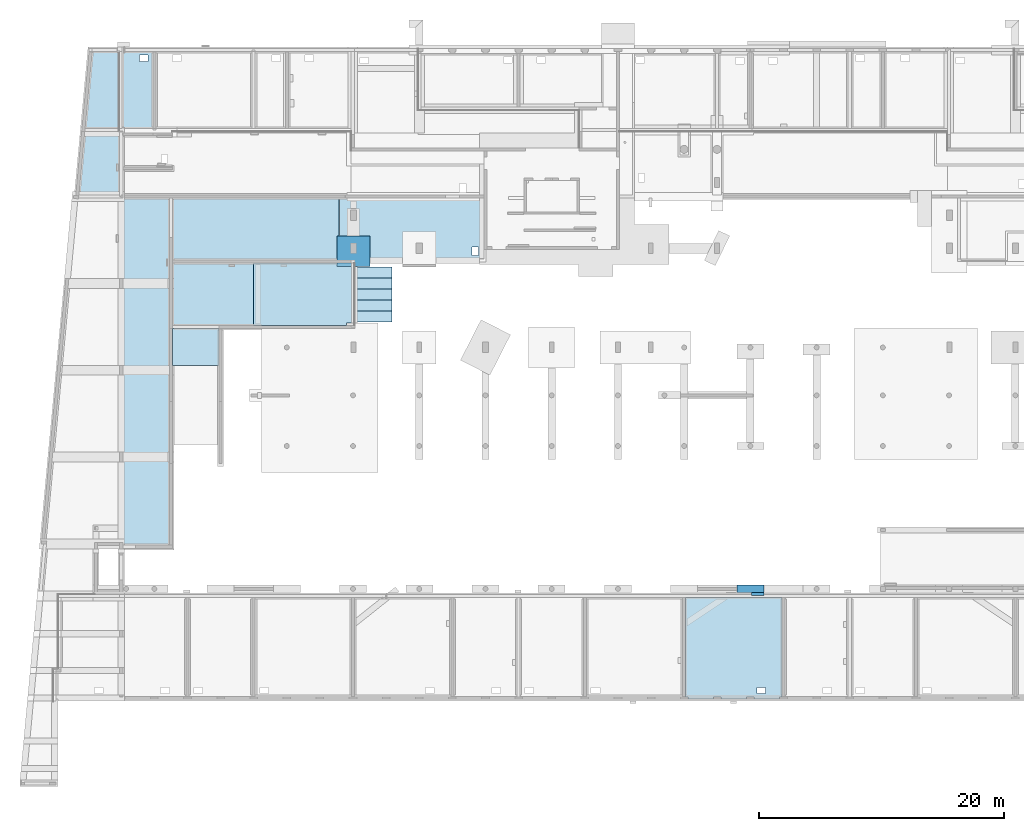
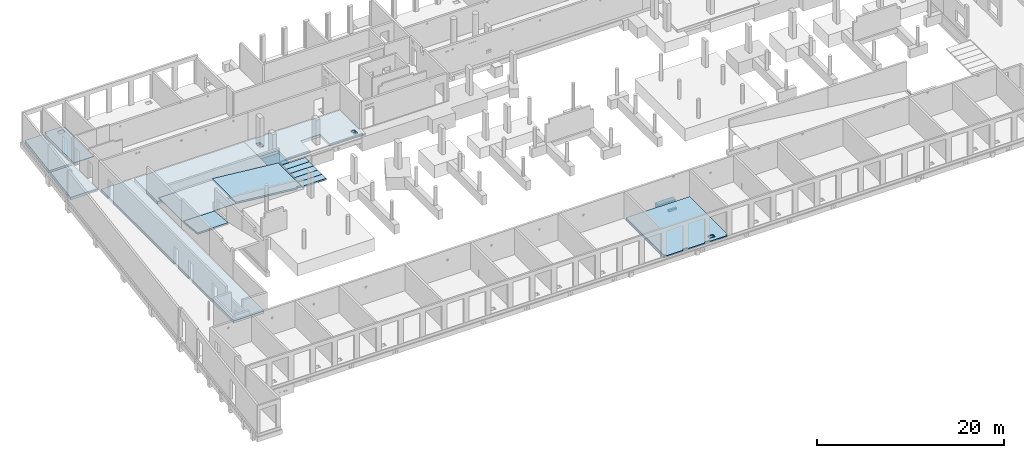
# One storey, part 23 of 60: 21 slabs, 38 openings.
"""IFC2X3 building model written with IfcOpenShell, lengths in millimetres."""

from ifc_helpers import new_model, entity, si_unit, converted_unit, derived_unit, direction, frame, frame_2d, origin, origin_2d_with_axis, place, context, subcontext, project, spatial, polyline, rectangle, outline, extrude, clip, halfspace, material, layer, layer_set, layer_usage, element, save


model = new_model("IFC2X3")

# Units and contexts
model_context = context("Model", 3, precision=0.01, world=origin(), true_north=direction((6.12303176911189e-17, 1.0)))
body_context = subcontext(model_context, "Body", "Model", "MODEL_VIEW")
ifc_project = project(units=[si_unit("LENGTHUNIT", "METRE", prefix="MILLI"), si_unit("AREAUNIT", "SQUARE_METRE"), si_unit("VOLUMEUNIT", "CUBIC_METRE"), converted_unit("PLANEANGLEUNIT", "DEGREE", entity("IfcRatioMeasure", 0.0174532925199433), si_unit("PLANEANGLEUNIT", "RADIAN"), dimensions=[0, 0, 0, 0, 0, 0, 0]), si_unit("MASSUNIT", "GRAM", prefix="KILO"), derived_unit("MASSDENSITYUNIT", [(si_unit("MASSUNIT", "GRAM", prefix="KILO"), 1), (si_unit("LENGTHUNIT", "METRE"), -3)]), si_unit("TIMEUNIT", "SECOND"), si_unit("FREQUENCYUNIT", "HERTZ"), si_unit("THERMODYNAMICTEMPERATUREUNIT", "DEGREE_CELSIUS"), derived_unit("THERMALTRANSMITTANCEUNIT", [(si_unit("MASSUNIT", "GRAM", prefix="KILO"), 1), (si_unit("THERMODYNAMICTEMPERATUREUNIT", "KELVIN"), -1), (si_unit("TIMEUNIT", "SECOND"), -3)]), derived_unit("VOLUMETRICFLOWRATEUNIT", [(si_unit("LENGTHUNIT", "METRE"), 3), (si_unit("TIMEUNIT", "SECOND"), -1)]), si_unit("ELECTRICCURRENTUNIT", "AMPERE"), si_unit("ELECTRICVOLTAGEUNIT", "VOLT"), si_unit("POWERUNIT", "WATT"), si_unit("FORCEUNIT", "NEWTON", prefix="KILO"), si_unit("ILLUMINANCEUNIT", "LUX"), si_unit("LUMINOUSFLUXUNIT", "LUMEN"), si_unit("LUMINOUSINTENSITYUNIT", "CANDELA"), derived_unit("USERDEFINED", [(si_unit("MASSUNIT", "GRAM", prefix="KILO"), -1), (si_unit("LENGTHUNIT", "METRE"), -2), (si_unit("TIMEUNIT", "SECOND"), 3), (si_unit("LUMINOUSFLUXUNIT", "LUMEN"), 1)]), derived_unit("LINEARVELOCITYUNIT", [(si_unit("LENGTHUNIT", "METRE"), 1), (si_unit("TIMEUNIT", "SECOND"), -1)]), si_unit("PRESSUREUNIT", "PASCAL"), derived_unit("USERDEFINED", [(si_unit("LENGTHUNIT", "METRE"), -2), (si_unit("MASSUNIT", "GRAM", prefix="KILO"), 1), (si_unit("TIMEUNIT", "SECOND"), -2)])], contexts=[model_context])

# Site, building, storey
site_placement = place(None, origin())
site = spatial("IfcSite", under=ifc_project, at=site_placement, Name="Default", CompositionType="ELEMENT")
building_placement = place(site_placement, origin())
building = spatial("IfcBuilding", under=site, at=building_placement, Name="niet gebruiken", CompositionType="ELEMENT")
storey_placement = place(building_placement, origin())
storey = spatial("IfcBuildingStorey", under=building, at=storey_placement, Name="00 begane grond", CompositionType="ELEMENT", Elevation=0.0)

# Slab
ifc_material_1 = material(Name="NLRS_f2_beton ihwg")
slab_1_placement = place(storey_placement, origin())
element("IfcSlab", 1, at=slab_1_placement, inside=storey, material=ifc_material_1, Name="NLRS_16.13_SFO_LB_fundatiepoer_gen:2470x2700x1350", ObjectType="NLRS_16.13_SFO_LB_fundatiepoer_gen:2470x2700x1350", PredefinedType="BASESLAB", context=body_context, shape_type="SweptSolid", body=[
    extrude(rectangle(XDim=2470.0, YDim=2700.0, at=frame_2d((-2.1600499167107e-12, -2.1600499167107e-12), x_axis=(1.0, 0.0))), frame((27025.0, 36736.0, -1752.0), z_axis=(0.0, 0.0, 1.0), x_axis=(0.0, -1.0, 0.0)), (0.0, 0.0, 1.0), 1350.0),
])

# Slab, openings
ifc_layer_1 = layer(ifc_material_1, 70.0)
ifc_layer_set_1 = layer_set([ifc_layer_1], Name="Floor:NLRS_23.21_FL_druklaag d=70_gen")
ifc_layer_usage_1 = layer_usage(ifc_layer_set_1, "AXIS3", "POSITIVE", 0.0)
slab_2_placement = place(storey_placement, frame((8180.0, 45156.0, -160.0)))
slab_2 = element("IfcSlab", 2, at=slab_2_placement, inside=storey, material=ifc_layer_usage_1, Name="Floor:NLRS_23.21_FL_druklaag d=70_gen:7", ObjectType="Floor:NLRS_23.21_FL_druklaag d=70_gen", PredefinedType="FLOOR", context=body_context, shape_type="SweptSolid", body=[
    extrude(outline(polyline([(55247.4999999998, -2460.0), (55247.4999999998, 3800.0), (55017.5000000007, 3800.0), (55017.5000000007, 4050.0), (52937.5000000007, 4050.0), (52937.5000000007, 3800.0), (52752.4999999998, 3800.0), (52752.4999999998, -2460.0), (55247.4999999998, -2460.0)])), frame((55247.4999999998, 4050.0, 70.0), z_axis=(0.0, 0.0, -1.0), x_axis=(-1.0, 0.0, 0.0)), (0.0, 0.0, 1.0), 70.0),
])
placement_1 = place(storey_placement, frame((8180.0, 45156.0, -160.0)))
opening_1_placement = place(placement_1, origin())
element("IfcOpeningElement", 3, at=opening_1_placement, cuts=slab_2, ObjectType="Opening", context=body_context, shape_type="SweptSolid", body=[
    extrude(rectangle(XDim=700.000000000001, YDim=499.999999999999, at=origin_2d_with_axis()), frame((1750.0, 7302.50000000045, -380.0), z_axis=(0.0, 0.0, 1.0), x_axis=(-1.0, 0.0, 0.0)), (0.0, 0.0, 1.0), 450.0),
])
opening_2_placement = place(placement_1, origin())
element("IfcOpeningElement", 4, at=opening_2_placement, cuts=slab_2, ObjectType="Opening", context=body_context, shape_type="SweptSolid", body=[
    extrude(rectangle(XDim=700.000000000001, YDim=499.999999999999, at=origin_2d_with_axis()), frame((4450.0, 7302.50000000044, -380.0), z_axis=(0.0, 0.0, 1.0), x_axis=(-1.0, 0.0, 0.0)), (0.0, 0.0, 1.0), 450.0),
])
opening_3_placement = place(placement_1, origin())
element("IfcOpeningElement", 5, at=opening_3_placement, cuts=slab_2, ObjectType="Opening", context=body_context, shape_type="SweptSolid", body=[
    extrude(rectangle(XDim=700.000000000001, YDim=499.999999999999, at=origin_2d_with_axis()), frame((12550.0, 7302.50000000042, -380.0), z_axis=(0.0, 0.0, 1.0), x_axis=(-1.0, 0.0, 0.0)), (0.0, 0.0, 1.0), 450.0),
])
opening_4_placement = place(placement_1, origin())
element("IfcOpeningElement", 6, at=opening_4_placement, cuts=slab_2, ObjectType="Opening", context=body_context, shape_type="SweptSolid", body=[
    extrude(rectangle(XDim=700.000000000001, YDim=499.999999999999, at=origin_2d_with_axis()), frame((15250.0, 7302.50000000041, -380.0), z_axis=(0.0, 0.0, 1.0), x_axis=(-1.0, 0.0, 0.0)), (0.0, 0.0, 1.0), 450.0),
])
opening_5_placement = place(placement_1, origin())
element("IfcOpeningElement", 7, at=opening_5_placement, cuts=slab_2, ObjectType="Opening", context=body_context, shape_type="SweptSolid", body=[
    extrude(rectangle(XDim=700.000000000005, YDim=499.999999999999, at=origin_2d_with_axis()), frame((42250.0, 7175.0, -380.0), z_axis=(0.0, 0.0, 1.0), x_axis=(-1.0, 0.0, 0.0)), (0.0, 0.0, 1.0), 450.0),
])
opening_6_placement = place(placement_1, origin())
element("IfcOpeningElement", 8, at=opening_6_placement, cuts=slab_2, ObjectType="Opening", context=body_context, shape_type="SweptSolid", body=[
    extrude(rectangle(XDim=700.000000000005, YDim=499.999999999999, at=origin_2d_with_axis()), frame((50350.0, 7102.50000000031, -380.0), z_axis=(0.0, 0.0, 1.0), x_axis=(-1.0, 0.0, 0.0)), (0.0, 0.0, 1.0), 450.0),
])
opening_7_placement = place(placement_1, origin())
element("IfcOpeningElement", 9, at=opening_7_placement, cuts=slab_2, ObjectType="Opening", context=body_context, shape_type="SweptSolid", body=[
    extrude(rectangle(XDim=699.999999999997, YDim=499.999999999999, at=origin_2d_with_axis()), frame((53050.0, 7102.50000000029, -380.0), z_axis=(0.0, 0.0, 1.0), x_axis=(-1.0, 0.0, 0.0)), (0.0, 0.0, 1.0), 450.0),
])
opening_8_placement = place(placement_1, origin())
element("IfcOpeningElement", 10, at=opening_8_placement, cuts=slab_2, ObjectType="Opening", context=body_context, shape_type="SweptSolid", body=[
    extrude(rectangle(XDim=699.999999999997, YDim=499.999999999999, at=origin_2d_with_axis()), frame((60190.0, 7302.50000000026, -380.0), z_axis=(0.0, 0.0, 1.0), x_axis=(-1.0, 0.0, 0.0)), (0.0, 0.0, 1.0), 450.0),
])
opening_9_placement = place(placement_1, origin())
element("IfcOpeningElement", 11, at=opening_9_placement, cuts=slab_2, ObjectType="Opening", context=body_context, shape_type="SweptSolid", body=[
    extrude(rectangle(XDim=700.000000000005, YDim=499.999999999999, at=origin_2d_with_axis()), frame((63850.0, 7302.50000000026, -380.0), z_axis=(0.0, 0.0, 1.0), x_axis=(-1.0, 0.0, 0.0)), (0.0, 0.0, 1.0), 450.0),
])
opening_10_placement = place(placement_1, origin())
element("IfcOpeningElement", 12, at=opening_10_placement, cuts=slab_2, ObjectType="Opening", context=body_context, shape_type="SweptSolid", body=[
    extrude(rectangle(XDim=699.999999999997, YDim=499.999999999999, at=origin_2d_with_axis()), frame((90850.0, 7155.0, -380.0), z_axis=(0.0, 0.0, 1.0), x_axis=(-1.0, 0.0, 0.0)), (0.0, 0.0, 1.0), 450.0),
])
opening_11_placement = place(placement_1, origin())
element("IfcOpeningElement", 13, at=opening_11_placement, cuts=slab_2, ObjectType="Opening", context=body_context, shape_type="SweptSolid", body=[
    extrude(rectangle(XDim=699.999999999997, YDim=499.999999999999, at=origin_2d_with_axis()), frame((97990.0, 7155.0, -380.0), z_axis=(0.0, 0.0, 1.0), x_axis=(-1.0, 0.0, 0.0)), (0.0, 0.0, 1.0), 450.0),
])
opening_12_placement = place(placement_1, origin())
element("IfcOpeningElement", 14, at=opening_12_placement, cuts=slab_2, ObjectType="Opening", context=body_context, shape_type="SweptSolid", body=[
    extrude(rectangle(XDim=699.999999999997, YDim=499.999999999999, at=origin_2d_with_axis()), frame((101650.0, 7302.50000000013, -380.0), z_axis=(0.0, 0.0, 1.0), x_axis=(-1.0, 0.0, 0.0)), (0.0, 0.0, 1.0), 450.0),
])
opening_13_placement = place(placement_1, origin())
element("IfcOpeningElement", 15, at=opening_13_placement, cuts=slab_2, ObjectType="Opening", context=body_context, shape_type="SweptSolid", body=[
    extrude(rectangle(XDim=699.999999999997, YDim=499.999999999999, at=origin_2d_with_axis()), frame((109750.0, 7302.50000000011, -380.0), z_axis=(0.0, 0.0, 1.0), x_axis=(-1.0, 0.0, 0.0)), (0.0, 0.0, 1.0), 450.0),
])
opening_14_placement = place(placement_1, origin())
element("IfcOpeningElement", 16, at=opening_14_placement, cuts=slab_2, ObjectType="Opening", context=body_context, shape_type="SweptSolid", body=[
    extrude(rectangle(XDim=699.999999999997, YDim=499.999999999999, at=origin_2d_with_axis()), frame((112450.0, 7302.5000000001, -380.0), z_axis=(0.0, 0.0, 1.0), x_axis=(-1.0, 0.0, 0.0)), (0.0, 0.0, 1.0), 450.0),
])
opening_15_placement = place(placement_1, origin())
element("IfcOpeningElement", 17, at=opening_15_placement, cuts=slab_2, ObjectType="Opening", context=body_context, shape_type="SweptSolid", body=[
    extrude(rectangle(XDim=700.000000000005, YDim=499.999999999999, at=origin_2d_with_axis()), frame((31450.0, 7175.0, -380.0), z_axis=(0.0, 0.0, 1.0), x_axis=(-1.0, 0.0, 0.0)), (0.0, 0.0, 1.0), 450.0),
])
opening_16_placement = place(placement_1, origin())
element("IfcOpeningElement", 18, at=opening_16_placement, cuts=slab_2, ObjectType="Opening", context=body_context, shape_type="SweptSolid", body=[
    extrude(rectangle(XDim=700.000000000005, YDim=499.999999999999, at=origin_2d_with_axis()), frame((34150.0, 7175.0, -380.0), z_axis=(0.0, 0.0, 1.0), x_axis=(-1.0, 0.0, 0.0)), (0.0, 0.0, 1.0), 450.0),
])
opening_17_placement = place(placement_1, origin())
element("IfcOpeningElement", 19, at=opening_17_placement, cuts=slab_2, ObjectType="Opening", context=body_context, shape_type="SweptSolid", body=[
    extrude(rectangle(XDim=699.999999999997, YDim=499.999999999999, at=origin_2d_with_axis()), frame((82750.0, 7175.0, -380.0), z_axis=(0.0, 0.0, 1.0), x_axis=(-1.0, 0.0, 0.0)), (0.0, 0.0, 1.0), 450.0),
])
opening_18_placement = place(placement_1, origin())
element("IfcOpeningElement", 20, at=opening_18_placement, cuts=slab_2, ObjectType="Opening", context=body_context, shape_type="SweptSolid", body=[
    extrude(rectangle(XDim=699.999999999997, YDim=499.999999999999, at=origin_2d_with_axis()), frame((80050.0, 7175.0, -380.0), z_axis=(0.0, 0.0, 1.0), x_axis=(-1.0, 0.0, 0.0)), (0.0, 0.0, 1.0), 450.0),
])
opening_19_placement = place(placement_1, origin())
element("IfcOpeningElement", 21, at=opening_19_placement, cuts=slab_2, ObjectType="Opening", context=body_context, shape_type="SweptSolid", body=[
    extrude(rectangle(XDim=700.000000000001, YDim=499.999999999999, at=origin_2d_with_axis()), frame((19739.8230847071, 7129.78918001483, -380.0), z_axis=(0.0, 0.0, 1.0), x_axis=(-1.0, 0.0, 0.0)), (0.0, 0.0, 1.0), 450.0),
])

ifc_layer_usage_2 = layer_usage(ifc_layer_set_1, "AXIS3", "POSITIVE", 0.0)
slab_3_placement = place(storey_placement, frame((2800.0, 200.0, -160.0)))
slab_3 = element("IfcSlab", 22, at=slab_3_placement, inside=storey, material=ifc_layer_usage_2, Name="Floor:NLRS_23.21_FL_druklaag d=70_gen:10", ObjectType="Floor:NLRS_23.21_FL_druklaag d=70_gen", PredefinedType="FLOOR", context=body_context, shape_type="SweptSolid", body=[
    extrude(outline(polyline([(-1572.49999999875, -3948.0), (-1387.49999999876, -3948.0), (-1387.49999999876, 4148.0), (-9237.49999999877, 4148.0), (-9237.49999999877, -3948.0), (-9052.49999999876, -3948.0), (-9052.49999999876, -4148.0), (-6972.49999999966, -4148.0), (-6972.49999999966, -3948.0), (-6352.49999999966, -3948.0), (-6352.49999999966, -4148.0), (-4272.49999999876, -4148.0), (-4272.49999999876, -3948.0), (-3652.49999999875, -3948.0), (-3652.49999999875, -4148.0), (-1572.49999999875, -4148.0), (-1572.49999999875, -3948.0)])), frame((49937.5, 4148.0, 70.0), z_axis=(0.0, 0.0, -1.0), x_axis=(-1.0, 0.0, 0.0)), (0.0, 0.0, 1.0), 70.0),
])
placement_2 = place(storey_placement, frame((2800.0, 200.0, -160.0)))
opening_20_placement = place(placement_2, origin())
element("IfcOpeningElement", 23, at=opening_20_placement, cuts=slab_3, ObjectType="Opening", context=body_context, shape_type="SweptSolid", body=[
    extrude(rectangle(XDim=699.999999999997, YDim=500.000000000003, at=origin_2d_with_axis()), frame((89870.0, 725.0, -380.0), z_axis=(0.0, 0.0, 1.0), x_axis=(-1.0, 0.0, 0.0)), (0.0, 0.0, 1.0), 450.0),
])
opening_21_placement = place(placement_2, origin())
element("IfcOpeningElement", 24, at=opening_21_placement, cuts=slab_3, ObjectType="Opening", context=body_context, shape_type="SweptSolid", body=[
    extrude(rectangle(XDim=699.999999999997, YDim=500.000000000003, at=origin_2d_with_axis()), frame((92570.0, 725.0, -380.0), z_axis=(0.0, 0.0, 1.0), x_axis=(-1.0, 0.0, 0.0)), (0.0, 0.0, 1.0), 450.0),
])
opening_22_placement = place(placement_2, origin())
element("IfcOpeningElement", 25, at=opening_22_placement, cuts=slab_3, ObjectType="Opening", context=body_context, shape_type="SweptSolid", body=[
    extrude(rectangle(XDim=699.999999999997, YDim=500.000000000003, at=origin_2d_with_axis()), frame((84470.0, 725.0, -380.0), z_axis=(0.0, 0.0, 1.0), x_axis=(-1.0, 0.0, 0.0)), (0.0, 0.0, 1.0), 450.0),
])
opening_23_placement = place(placement_2, origin())
element("IfcOpeningElement", 26, at=opening_23_placement, cuts=slab_3, ObjectType="Opening", context=body_context, shape_type="SweptSolid", body=[
    extrude(rectangle(XDim=700.000000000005, YDim=500.000000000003, at=origin_2d_with_axis()), frame((70970.0, 725.0, -380.0), z_axis=(0.0, 0.0, 1.0), x_axis=(-1.0, 0.0, 0.0)), (0.0, 0.0, 1.0), 450.0),
])
opening_24_placement = place(placement_2, origin())
element("IfcOpeningElement", 27, at=opening_24_placement, cuts=slab_3, ObjectType="Opening", context=body_context, shape_type="SweptSolid", body=[
    extrude(rectangle(XDim=700.000000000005, YDim=500.000000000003, at=origin_2d_with_axis()), frame((65570.0, 725.0, -380.0), z_axis=(0.0, 0.0, 1.0), x_axis=(-1.0, 0.0, 0.0)), (0.0, 0.0, 1.0), 450.0),
])
opening_25_placement = place(placement_2, origin())
element("IfcOpeningElement", 28, at=opening_25_placement, cuts=slab_3, ObjectType="Opening", context=body_context, shape_type="SweptSolid", body=[
    extrude(rectangle(XDim=700.000000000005, YDim=500.000000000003, at=origin_2d_with_axis()), frame((62870.0, 725.0, -380.0), z_axis=(0.0, 0.0, 1.0), x_axis=(-1.0, 0.0, 0.0)), (0.0, 0.0, 1.0), 450.0),
])
opening_26_placement = place(placement_2, origin())
element("IfcOpeningElement", 29, at=opening_26_placement, cuts=slab_3, ObjectType="Opening", context=body_context, shape_type="SweptSolid", body=[
    extrude(rectangle(XDim=700.000000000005, YDim=500.000000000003, at=origin_2d_with_axis()), frame((57470.0, 725.0, -380.0), z_axis=(0.0, 0.0, 1.0), x_axis=(-1.0, 0.0, 0.0)), (0.0, 0.0, 1.0), 450.0),
])
opening_27_placement = place(placement_2, origin())
element("IfcOpeningElement", 30, at=opening_27_placement, cuts=slab_3, ObjectType="Opening", context=body_context, shape_type="SweptSolid", body=[
    extrude(rectangle(XDim=700.000000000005, YDim=500.000000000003, at=origin_2d_with_axis()), frame((43970.0, 725.0, -380.0), z_axis=(0.0, 0.0, 1.0), x_axis=(-1.0, 0.0, 0.0)), (0.0, 0.0, 1.0), 450.0),
])
opening_28_placement = place(placement_2, origin())
element("IfcOpeningElement", 31, at=opening_28_placement, cuts=slab_3, ObjectType="Opening", context=body_context, shape_type="SweptSolid", body=[
    extrude(rectangle(XDim=700.000000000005, YDim=500.000000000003, at=origin_2d_with_axis()), frame((38570.0, 725.0, -380.0), z_axis=(0.0, 0.0, 1.0), x_axis=(-1.0, 0.0, 0.0)), (0.0, 0.0, 1.0), 450.0),
])
opening_29_placement = place(placement_2, origin())
element("IfcOpeningElement", 32, at=opening_29_placement, cuts=slab_3, ObjectType="Opening", context=body_context, shape_type="SweptSolid", body=[
    extrude(rectangle(XDim=700.000000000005, YDim=500.000000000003, at=origin_2d_with_axis()), frame((35870.0, 725.0, -380.0), z_axis=(0.0, 0.0, 1.0), x_axis=(-1.0, 0.0, 0.0)), (0.0, 0.0, 1.0), 450.0),
])
opening_30_placement = place(placement_2, origin())
element("IfcOpeningElement", 33, at=opening_30_placement, cuts=slab_3, ObjectType="Opening", context=body_context, shape_type="SweptSolid", body=[
    extrude(rectangle(XDim=700.000000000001, YDim=500.000000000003, at=origin_2d_with_axis()), frame((30470.0, 725.0, -380.0), z_axis=(0.0, 0.0, 1.0), x_axis=(-1.0, 0.0, 0.0)), (0.0, 0.0, 1.0), 450.0),
])
opening_31_placement = place(placement_2, origin())
element("IfcOpeningElement", 34, at=opening_31_placement, cuts=slab_3, ObjectType="Opening", context=body_context, shape_type="SweptSolid", body=[
    extrude(rectangle(XDim=700.000000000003, YDim=500.000000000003, at=origin_2d_with_axis()), frame((16970.0, 725.0, -380.0), z_axis=(0.0, 0.0, 1.0), x_axis=(-1.0, 0.0, 0.0)), (0.0, 0.0, 1.0), 450.0),
])
opening_32_placement = place(placement_2, origin())
element("IfcOpeningElement", 35, at=opening_32_placement, cuts=slab_3, ObjectType="Opening", context=body_context, shape_type="SweptSolid", body=[
    extrude(rectangle(XDim=700.000000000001, YDim=500.000000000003, at=origin_2d_with_axis()), frame((11570.0, 725.0, -380.0), z_axis=(0.0, 0.0, 1.0), x_axis=(-1.0, 0.0, 0.0)), (0.0, 0.0, 1.0), 450.0),
])
opening_33_placement = place(placement_2, origin())
element("IfcOpeningElement", 36, at=opening_33_placement, cuts=slab_3, ObjectType="Opening", context=body_context, shape_type="SweptSolid", body=[
    extrude(rectangle(XDim=700.000000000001, YDim=500.000000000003, at=origin_2d_with_axis()), frame((8870.0, 725.0, -380.0), z_axis=(0.0, 0.0, 1.0), x_axis=(-1.0, 0.0, 0.0)), (0.0, 0.0, 1.0), 450.0),
])
opening_34_placement = place(placement_2, origin())
element("IfcOpeningElement", 37, at=opening_34_placement, cuts=slab_3, ObjectType="Opening", context=body_context, shape_type="SweptSolid", body=[
    extrude(rectangle(XDim=700.000000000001, YDim=500.000000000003, at=origin_2d_with_axis()), frame((3470.0, 725.0, -380.0), z_axis=(0.0, 0.0, 1.0), x_axis=(-1.0, 0.0, 0.0)), (0.0, 0.0, 1.0), 450.0),
])
opening_35_placement = place(placement_2, origin())
element("IfcOpeningElement", 38, at=opening_35_placement, cuts=slab_3, ObjectType="Opening", context=body_context, shape_type="SweptSolid", body=[
    extrude(rectangle(XDim=699.999999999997, YDim=500.000000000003, at=origin_2d_with_axis()), frame((99205.001708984, 4120.00003051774, -380.0), z_axis=(0.0, 0.0, 1.0), x_axis=(-1.0, 0.0, 0.0)), (0.0, 0.0, 1.0), 450.0),
])

# Slabs
ifc_material_2 = material(Name="NLRS_f2_beton prefab")
ifc_layer_2 = layer(ifc_material_2, 200.0)
ifc_material_3 = material(Name="NLRS_n7_isolatie EPS")
ifc_layer_3 = layer(ifc_material_3, 132.0)
ifc_layer_set_2 = layer_set([ifc_layer_2, ifc_layer_3], Name="Floor:NLRS_23.21_FL_geisoleerde kanaalplaat d=200 rc 3.5 iso132_gen")
ifc_layer_usage_3 = layer_usage(ifc_layer_set_2, "AXIS3", "POSITIVE", 0.0)
slab_4_placement = place(storey_placement, origin())
element("IfcSlab", 39, at=slab_4_placement, inside=storey, material=ifc_layer_usage_3, Name="Floor:NLRS_23.21_FL_geisoleerde kanaalplaat d=200 rc 3.5 iso132_gen", ObjectType="Floor:NLRS_23.21_FL_geisoleerde kanaalplaat d=200 rc 3.5 iso132_gen", PredefinedType="FLOOR", context=body_context, shape_type="SweptSolid", body=[
    extrude(outline(polyline([(-1225.67147952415, -3110.0), (1513.95306384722, -3110.0), (937.389895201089, 3110.0), (-1225.67147952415, 3110.0), (-1225.67147952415, -3110.0)])), frame((6684.32852047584, 49876.0, -70.0), z_axis=(0.0, 0.0, -1.0), x_axis=(-1.0, 0.0, 0.0)), (0.0, 0.0, 1.0), 332.0),
])
ifc_layer_usage_4 = layer_usage(ifc_layer_set_2, "AXIS3", "POSITIVE", 0.0)
slab_5_placement = place(storey_placement, origin())
element("IfcSlab", 40, at=slab_5_placement, inside=storey, material=ifc_layer_usage_4, Name="Floor:NLRS_23.21_FL_geisoleerde kanaalplaat d=200 rc 3.5 iso132_gen", ObjectType="Floor:NLRS_23.21_FL_geisoleerde kanaalplaat d=200 rc 3.5 iso132_gen", PredefinedType="FLOOR", context=body_context, shape_type="SweptSolid", body=[
    extrude(outline(polyline([(-1524.98205225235, -2572.49999999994), (1763.4400508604, -2572.49999999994), (1286.52405364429, 2572.49999999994), (-1524.98205225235, 2572.49999999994), (-1524.98205225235, -2572.49999999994)])), frame((6430.01794774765, 43903.5000000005, -70.0), z_axis=(0.0, 0.0, -1.0), x_axis=(-1.0, 0.0, 0.0)), (0.0, 0.0, 1.0), 332.0),
])

# Slab, opening
ifc_layer_usage_5 = layer_usage(ifc_layer_set_2, "AXIS3", "POSITIVE", 0.0)
slab_6_placement = place(storey_placement, frame((54145.0, 420.0, -492.0)))
slab_6 = element("IfcSlab", 41, at=slab_6_placement, inside=storey, material=ifc_layer_usage_5, Name="Floor:NLRS_23.21_FL_geisoleerde kanaalplaat d=200 rc 3.5 iso132_gen", ObjectType="Floor:NLRS_23.21_FL_geisoleerde kanaalplaat d=200 rc 3.5 iso132_gen", PredefinedType="FLOOR", context=body_context, shape_type="SweptSolid", body=[
    extrude(rectangle(XDim=8055.99999999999, YDim=7809.99999999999, at=frame_2d((0.0, 0.0), x_axis=(0.0, -1.0))), frame((3905.0, 4028.0, 332.0), z_axis=(0.0, 0.0, -1.0), x_axis=(-1.0, 0.0, 0.0)), (0.0, 0.0, 1.0), 332.0),
])
opening_36_placement = place(slab_6_placement, origin())
element("IfcOpeningElement", 42, at=opening_36_placement, cuts=slab_6, ObjectType="Opening", context=body_context, shape_type="SweptSolid", body=[
    extrude(rectangle(XDim=700.000000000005, YDim=500.000000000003, at=origin_2d_with_axis()), frame((6125.0, 505.0, -48.0), z_axis=(0.0, 0.0, 1.0), x_axis=(-1.0, 0.0, 0.0)), (0.0, 0.0, 1.0), 450.0),
])

# Slab
ifc_layer_usage_6 = layer_usage(ifc_layer_set_2, "AXIS3", "POSITIVE", 0.0)
slab_7_placement = place(storey_placement, origin())
element("IfcSlab", 43, at=slab_7_placement, inside=storey, material=ifc_layer_usage_6, Name="Floor:NLRS_23.21_FL_geisoleerde kanaalplaat d=200 rc 3.5 iso132_gen", ObjectType="Floor:NLRS_23.21_FL_geisoleerde kanaalplaat d=200 rc 3.5 iso132_gen", PredefinedType="FLOOR", context=body_context, shape_type="SweptSolid", body=[
    extrude(rectangle(XDim=5014.99999999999, YDim=13564.9999999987, at=frame_2d((0.0, 2.27373675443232e-12), x_axis=(1.0, 0.0))), frame((19077.4999999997, 38533.5000000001, -70.0), z_axis=(0.0, 0.0, -1.0), x_axis=(0.0, 1.0, 0.0)), (0.0, 0.0, 1.0), 332.0),
])

# Slab, openings
ifc_layer_usage_7 = layer_usage(ifc_layer_set_2, "AXIS3", "POSITIVE", 0.0)
slab_8_placement = place(storey_placement, frame((25880.0, 36126.0, -402.0)))
slab_8 = element("IfcSlab", 44, at=slab_8_placement, inside=storey, material=ifc_layer_usage_7, Name="Floor:NLRS_23.21_FL_geisoleerde kanaalplaat d=200 rc 3.5 iso132_gen", ObjectType="Floor:NLRS_23.21_FL_geisoleerde kanaalplaat d=200 rc 3.5 iso132_gen", PredefinedType="FLOOR", context=body_context, shape_type="SweptSolid", body=[
    extrude(outline(polyline([(-5887.49999999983, 2457.5), (-5887.49999999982, -2457.50000000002), (-1832.50000000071, -2457.50000000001), (-1832.50000000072, -402.500000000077), (567.499999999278, -402.500000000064), (567.499999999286, -2457.5), (3542.49999999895, -2457.5), (3542.49999999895, -762.499999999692), (5887.49999999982, -762.499999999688), (5887.49999999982, 2457.5), (-5887.49999999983, 2457.5)])), frame((5887.49999999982, 2457.50000000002, 332.0), z_axis=(0.0, 0.0, -1.0), x_axis=(-1.0, 0.0, 0.0)), (0.0, 0.0, 1.0), 332.0),
])
opening_37_placement = place(slab_8_placement, origin())
element("IfcOpeningElement", 45, at=opening_37_placement, cuts=slab_8, ObjectType="Opening", context=body_context, shape_type="SweptSolid", body=[
    extrude(rectangle(XDim=700.000000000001, YDim=500.000000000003, at=origin_2d_with_axis()), frame((11079.9941357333, 590.002868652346, -48.0), z_axis=(0.0, 0.0, 1.0), x_axis=(0.0, -1.0, 0.0)), (0.0, 0.0, 1.0), 450.0),
])
opening_38_placement = place(slab_8_placement, frame((1145.0, 3530.0, 332.0)))
element("IfcOpeningElement", 46, at=opening_38_placement, cuts=slab_8, Name="Floor:NLRS_23.21_FL_geisoleerde kanaalplaat d=200 rc 3.5 iso132_gen:2", ObjectType="Opening", context=body_context, shape_type="SweptSolid", body=[
    extrude(rectangle(XDim=890.000000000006, YDim=539.999999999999, at=origin_2d_with_axis()), frame((0.0, 0.0, 0.0), z_axis=(0.0, 0.0, -1.0), x_axis=(0.0, -1.0, 0.0)), (0.0, 0.0, 1.0), 332.0),
])

# Slabs
ifc_layer_4 = layer(ifc_material_1, 250.0)
ifc_layer_set_3 = layer_set([ifc_layer_4], Name="Floor:NLRS_23.21_FL_breedplaat d=70/250_opgeruwd_schil apart_gen")
ifc_layer_usage_8 = layer_usage(ifc_layer_set_3, "AXIS3", "POSITIVE", 0.0)
slab_9_placement = place(storey_placement, origin())
element("IfcSlab", 47, at=slab_9_placement, inside=storey, material=ifc_layer_usage_8, Name="Floor:NLRS_23.21_FL_breedplaat d=70/250_opgeruwd_schil apart_gen", ObjectType="Floor:NLRS_23.21_FL_breedplaat d=70/250_opgeruwd_schil apart_gen", PredefinedType="FLOOR", context=body_context, shape_type="Clipping", body=[
    clip(clip(extrude(rectangle(XDim=3014.96268633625, YDim=3799.99999999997, at=frame_2d((2.27373675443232e-12, 0.0), x_axis=(1.0, 0.0))), frame((14175.0, 28926.0, 950.0), z_axis=(0.0, -0.0995037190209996, -0.995037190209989), x_axis=(0.0, 0.995037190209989, -0.0995037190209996)), (0.0995037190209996, 0.0, 0.995037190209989), 181.80233229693), halfspace(frame((14175.0, 30446.0, 617.109430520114), z_axis=(0.0, -0.0995006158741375, -0.995037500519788), x_axis=(0.0, 0.995037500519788, -0.0995006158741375)), False)), halfspace(frame((14175.0, 30426.0, 800.0), z_axis=(0.0, 0.0995037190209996, 0.995037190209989), x_axis=(0.0, 0.995037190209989, -0.0995037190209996)), False)),
])
ifc_layer_usage_9 = layer_usage(ifc_layer_set_3, "AXIS3", "POSITIVE", 0.0)
slab_10_placement = place(storey_placement, frame((18900.0, 30676.0, -251.216367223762)))
element("IfcSlab", 48, at=slab_10_placement, inside=storey, material=ifc_layer_usage_9, Name="Floor:NLRS_23.21_FL_breedplaat d=70/250_opgeruwd_schil apart_gen", ObjectType="Floor:NLRS_23.21_FL_breedplaat d=70/250_opgeruwd_schil apart_gen", PredefinedType="FLOOR", context=body_context, shape_type="SweptSolid", body=[
    extrude(outline(polyline([(0.0, -2575.0), (0.0, 2300.0), (-8139.41029804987, 2300.0), (-8139.41029804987, -2780.0), (-552.676007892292, -2780.0), (-552.676007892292, -2575.0), (0.0, -2575.0)])), frame((8100.0, 2780.0, 251.216367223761), z_axis=(0.098287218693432, 0.0, 0.995158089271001), x_axis=(0.995158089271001, 0.0, -0.098287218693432)), (0.098287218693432, 0.0, -0.995158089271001), 251.216367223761),
])
ifc_layer_usage_10 = layer_usage(ifc_layer_set_2, "AXIS3", "POSITIVE", 0.0)
slab_11_placement = place(storey_placement, origin())
element("IfcSlab", 49, at=slab_11_placement, inside=storey, material=ifc_layer_usage_10, Name="Floor:NLRS_23.21_FL_geisoleerde kanaalplaat d=200 rc 3.5 iso132_gen", ObjectType="Floor:NLRS_23.21_FL_geisoleerde kanaalplaat d=200 rc 3.5 iso132_gen", PredefinedType="FLOOR", context=body_context, shape_type="SweptSolid", body=[
    extrude(rectangle(XDim=28265.0000000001, YDim=3760.00000000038, at=frame_2d((-9.09494701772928e-12, -1.13686837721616e-12), x_axis=(1.0, 0.0))), frame((10125.0, 26908.5, -70.0), z_axis=(0.0, 0.0, -1.0), x_axis=(0.0, 1.0, 0.0)), (0.0, 0.0, 1.0), 332.0),
])
slab_12_placement = place(storey_placement, origin())
element("IfcSlab", 50, at=slab_12_placement, inside=storey, material=ifc_material_1, Name="NLRS_16.13_SFO_LB_fundatiepoer_gen:600x2200x1200", ObjectType="NLRS_16.13_SFO_LB_fundatiepoer_gen:600x2200x1200", PredefinedType="BASESLAB", context=body_context, shape_type="SweptSolid", body=[
    extrude(rectangle(XDim=2200.0, YDim=600.0, at=frame_2d((20.0000000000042, -59.9999999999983), x_axis=(1.0, 0.0))), frame((59420.0, 9136.0, -1400.0), z_axis=(0.0, 0.0, 1.0), x_axis=(-1.0, 0.0, 0.0)), (0.0, 0.0, 1.0), 1200.0),
])
ifc_layer_5 = layer(ifc_material_2, 200.0)
ifc_layer_set_4 = layer_set([ifc_layer_5], Name="Floor:NLRS_13.22_FL_beton prefab d=200_gen")
ifc_layer_usage_11 = layer_usage(ifc_layer_set_4, "AXIS3", "POSITIVE", 0.0)
slab_13_placement = place(storey_placement, origin())
element("IfcSlab", 51, at=slab_13_placement, inside=storey, material=ifc_layer_usage_11, Name="Floor:NLRS_13.22_FL_beton prefab d=200_gen", ObjectType="Floor:NLRS_13.22_FL_beton prefab d=200_gen", PredefinedType="FLOOR", context=body_context, shape_type="SweptSolid", body=[
    extrude(rectangle(XDim=900.000000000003, YDim=3000.00000000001, at=frame_2d((2.1600499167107e-12, 0.0), x_axis=(1.0, 0.0))), frame((28670.0, 33190.0, -202.0), z_axis=(0.0, 0.0, -1.0), x_axis=(0.0, 1.0, 0.0)), (0.0, 0.0, 1.0), 200.0),
])
ifc_layer_usage_12 = layer_usage(ifc_layer_set_4, "AXIS3", "POSITIVE", 0.0)
slab_14_placement = place(storey_placement, origin())
element("IfcSlab", 52, at=slab_14_placement, inside=storey, material=ifc_layer_usage_12, Name="Floor:NLRS_13.22_FL_beton prefab d=200_gen", ObjectType="Floor:NLRS_13.22_FL_beton prefab d=200_gen", PredefinedType="FLOOR", context=body_context, shape_type="SweptSolid", body=[
    extrude(rectangle(XDim=900.000000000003, YDim=2999.99999999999, at=frame_2d((2.1600499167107e-12, 0.0), x_axis=(1.0, 0.0))), frame((28670.0, 34090.0, -202.0), z_axis=(0.0, 0.0, -1.0), x_axis=(0.0, 1.0, 0.0)), (0.0, 0.0, 1.0), 200.0),
])
ifc_layer_usage_13 = layer_usage(ifc_layer_set_4, "AXIS3", "POSITIVE", 0.0)
slab_15_placement = place(storey_placement, origin())
element("IfcSlab", 53, at=slab_15_placement, inside=storey, material=ifc_layer_usage_13, Name="Floor:NLRS_13.22_FL_beton prefab d=200_gen", ObjectType="Floor:NLRS_13.22_FL_beton prefab d=200_gen", PredefinedType="FLOOR", context=body_context, shape_type="SweptSolid", body=[
    extrude(rectangle(XDim=900.000000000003, YDim=2999.99999999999, at=frame_2d((2.1600499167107e-12, 0.0), x_axis=(1.0, 0.0))), frame((28670.0, 34990.0, -202.0), z_axis=(0.0, 0.0, -1.0), x_axis=(0.0, 1.0, 0.0)), (0.0, 0.0, 1.0), 200.0),
])
ifc_layer_usage_14 = layer_usage(ifc_layer_set_4, "AXIS3", "POSITIVE", 0.0)
slab_16_placement = place(storey_placement, origin())
element("IfcSlab", 54, at=slab_16_placement, inside=storey, material=ifc_layer_usage_14, Name="Floor:NLRS_13.22_FL_beton prefab d=200_gen", ObjectType="Floor:NLRS_13.22_FL_beton prefab d=200_gen", PredefinedType="FLOOR", context=body_context, shape_type="SweptSolid", body=[
    extrude(rectangle(XDim=900.000000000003, YDim=3000.00000000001, at=frame_2d((2.1600499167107e-12, 0.0), x_axis=(1.0, 0.0))), frame((28670.0, 32290.0, -202.0), z_axis=(0.0, 0.0, -1.0), x_axis=(0.0, 1.0, 0.0)), (0.0, 0.0, 1.0), 200.0),
])
ifc_layer_usage_15 = layer_usage(ifc_layer_set_4, "AXIS3", "POSITIVE", 0.0)
slab_17_placement = place(storey_placement, origin())
element("IfcSlab", 55, at=slab_17_placement, inside=storey, material=ifc_layer_usage_15, Name="Floor:NLRS_13.22_FL_beton prefab d=200_gen", ObjectType="Floor:NLRS_13.22_FL_beton prefab d=200_gen", PredefinedType="FLOOR", context=body_context, shape_type="SweptSolid", body=[
    extrude(rectangle(XDim=900.000000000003, YDim=3000.00000000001, at=frame_2d((2.1600499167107e-12, 0.0), x_axis=(1.0, 0.0))), frame((28670.0, 31390.0, -202.0), z_axis=(0.0, 0.0, -1.0), x_axis=(0.0, 1.0, 0.0)), (0.0, 0.0, 1.0), 200.0),
])
ifc_layer_6 = layer(ifc_material_2, 70.0)
ifc_layer_set_5 = layer_set([ifc_layer_6], Name="Floor:NLRS_23.21_FL_breedplaatschil d=70_gen")
ifc_layer_usage_16 = layer_usage(ifc_layer_set_5, "AXIS3", "POSITIVE", 0.0)
slab_18_placement = place(storey_placement, origin())
element("IfcSlab", 56, at=slab_18_placement, inside=storey, material=ifc_layer_usage_16, Name="Floor:NLRS_23.21_FL_breedplaatschil d=70_gen", ObjectType="Floor:NLRS_23.21_FL_breedplaatschil d=70_gen", PredefinedType="FLOOR", context=body_context, shape_type="Clipping", body=[
    clip(clip(extrude(rectangle(XDim=3035.06149107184, YDim=3799.99999999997, at=frame_2d((4.32009983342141e-12, 0.0), x_axis=(1.0, 0.0))), frame((14175.0, 28936.0, 768.104674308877), z_axis=(0.0, -0.0995006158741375, -0.995037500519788), x_axis=(0.0, 0.995037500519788, -0.0995006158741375)), (0.0995006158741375, 0.0, 0.995037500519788), 70.6999559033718), halfspace(frame((14175.0, 30446.0, 546.760323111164), z_axis=(0.0, -0.0995006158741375, -0.995037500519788), x_axis=(0.0, -0.995037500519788, 0.0995006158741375)), False)), halfspace(frame((14175.0, 30446.0, 617.109430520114), z_axis=(0.0, 0.0995006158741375, 0.995037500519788), x_axis=(0.0, 0.995037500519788, -0.0995006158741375)), False)),
])
ifc_layer_usage_17 = layer_usage(ifc_layer_set_5, "AXIS3", "POSITIVE", 0.0)
slab_19_placement = place(storey_placement, origin())
element("IfcSlab", 57, at=slab_19_placement, inside=storey, material=ifc_layer_usage_17, Name="Floor:NLRS_23.21_FL_breedplaatschil d=70_gen", ObjectType="Floor:NLRS_23.21_FL_breedplaatschil d=70_gen", PredefinedType="FLOOR", context=body_context, shape_type="SweptSolid", body=[
    extrude(outline(polyline([(-1706.66666666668, -3455.0), (3373.33333333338, -3455.0), (3373.33333333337, 3150.0), (-1666.66666666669, 3150.0), (-1666.66666666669, 305.0), (-1706.66666666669, 305.0), (-1706.66666666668, -3455.0)])), frame((15750.0, 32362.6666666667, 620.0), z_axis=(0.0, 0.0, -1.0), x_axis=(0.0, 1.0, 0.0)), (0.0, 0.0, 1.0), 70.0),
])
ifc_layer_usage_18 = layer_usage(ifc_layer_set_5, "AXIS3", "POSITIVE", 0.0)
slab_20_placement = place(storey_placement, origin())
element("IfcSlab", 58, at=slab_20_placement, inside=storey, material=ifc_layer_usage_18, Name="Floor:NLRS_23.21_FL_breedplaatschil d=70_gen", ObjectType="Floor:NLRS_23.21_FL_breedplaatschil d=70_gen", PredefinedType="FLOOR", context=body_context, shape_type="Clipping", body=[
    clip(clip(extrude(outline(polyline([(-1761.6666666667, -5201.85050152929), (3318.33333333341, -5201.85050152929), (3318.33333333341, 2816.97119883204), (-1556.66666666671, 2816.97119883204), (-1556.66666666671, 2384.87930269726), (-1761.6666666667, 2384.87930269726), (-1761.6666666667, -5201.85050152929)])), frame((24076.6666666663, 32437.6666666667, 107.878246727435), z_axis=(-0.0982812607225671, 0.0, -0.995158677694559), x_axis=(0.0, 1.0, 0.0)), (0.0, 0.0982812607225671, 0.995158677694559), 70.6827391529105), halfspace(frame((26880.0, 33456.0, -168.977234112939), z_axis=(0.0982812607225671, 0.0, 0.995158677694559), x_axis=(0.995158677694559, 0.0, -0.0982812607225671)), False)), halfspace(frame((26880.0, 33456.0, -239.317775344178), z_axis=(-0.0982812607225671, 0.0, -0.995158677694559), x_axis=(-0.995158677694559, 0.0, 0.0982812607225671)), False)),
])
ifc_layer_7 = layer(ifc_material_1, 280.0)
ifc_layer_set_6 = layer_set([ifc_layer_7], Name="Floor:NLRS_23.21_FL_beton ihwg d=280_gen")
ifc_layer_usage_19 = layer_usage(ifc_layer_set_6, "AXIS3", "POSITIVE", 0.0)
slab_21_placement = place(storey_placement, origin())
element("IfcSlab", 59, at=slab_21_placement, inside=storey, material=ifc_layer_usage_19, Name="Floor:NLRS_23.21_FL_beton ihwg d=280_gen", ObjectType="Floor:NLRS_23.21_FL_beton ihwg d=280_gen", PredefinedType="FLOOR", context=body_context, shape_type="SweptSolid", body=[
    extrude(rectangle(XDim=249.999999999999, YDim=999.999999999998, at=origin_2d_with_axis()), frame((60000.0, 8771.0, -1120.0), z_axis=(0.0, 0.0, -1.0), x_axis=(0.0, 1.0, 0.0)), (0.0, 0.0, 1.0), 280.0),
])

save(model, "model.ifc")
